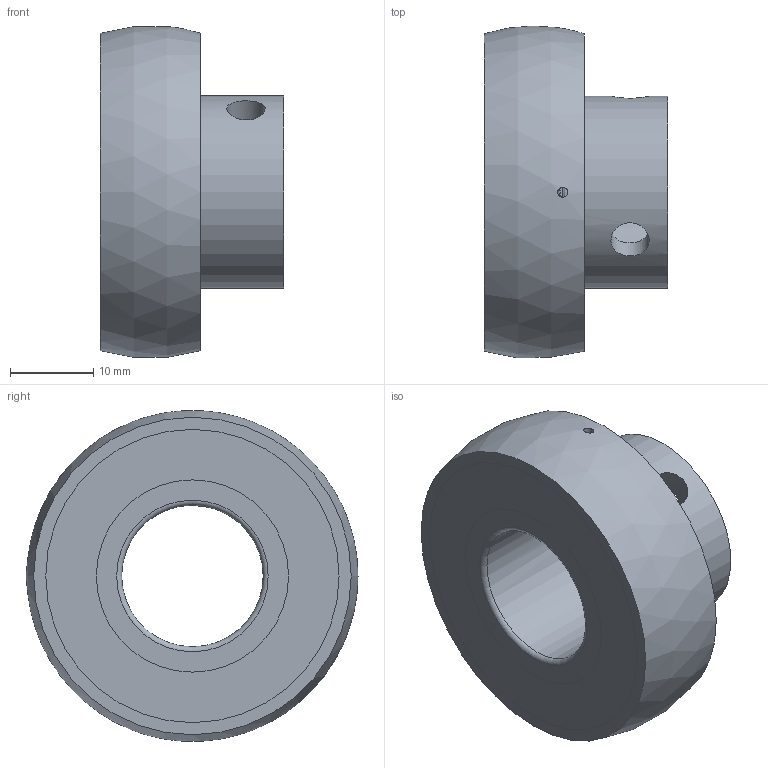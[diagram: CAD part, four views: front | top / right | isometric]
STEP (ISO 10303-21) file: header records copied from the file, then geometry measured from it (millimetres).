
FILE_DESCRIPTION(/* description */ (''),/* implementation_level */ '2;1');
FILE_NAME(/* name */ 'US203S.stp',/* time_stamp */ '2024-06-13T08:54:38+02:00',/* author */ ('OUPIONTEKM'),/* organization */ (''),/* preprocessor_version */ 'ST-DEVELOPER v20',/* originating_system */ 'Autodesk Inventor 2025',/* authorisation */ '');
FILE_SCHEMA (('AUTOMOTIVE_DESIGN { 1 0 10303 214 3 1 1 }'));
Length unit declared in the file: millimetre
Products named in the file (6): US203; US203-02; US203-ball; US203-cage; US203-seal; US203-01
Assembly tree (14 placements, depth 2):
  US203
    US203-02
    US203-ball  x8
    US203-cage  x2
    US203-seal  x2
    US203-01
Bounding box: 22 x 39.9 x 39.74 mm (x, y, z)
Volume: 10036.7 mm3; surface area: 11667 mm2
Topology: 14 solids, 14 shells, 108 faces, 397 edges, 264 vertices
Faces by surface type: sphere 41, plane 40, cylinder 19, torus 4, cone 4
Full cylindrical faces by diameter (mm): 1.2 x2, 4.6 x2, 17 x1, 23.102 x4, 25.801 x2, 31.199 x2, 33.898 x2, 35.247 x4
Entity records: 3513 total; most frequent: CARTESIAN_POINT 1392, DIRECTION 434, ORIENTED_EDGE 402, AXIS2_PLACEMENT_3D 208, EDGE_CURVE 201, VERTEX_POINT 146, CIRCLE 126, EDGE_LOOP 75
